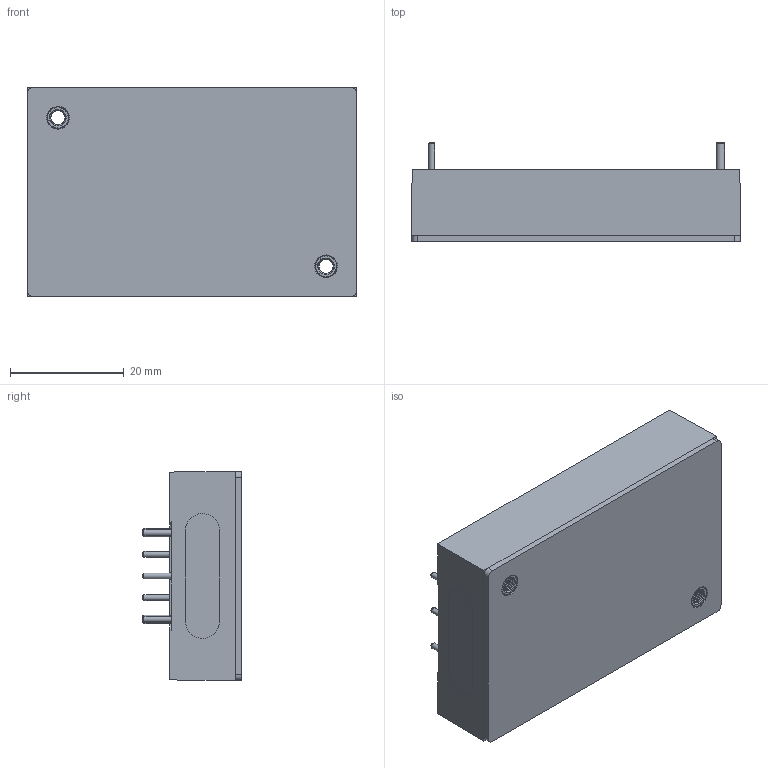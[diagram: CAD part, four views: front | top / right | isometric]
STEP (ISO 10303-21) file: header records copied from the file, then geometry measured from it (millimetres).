
FILE_DESCRIPTION (( 'STEP AP203' ), '1' );
FILE_NAME ('CQB100W-110SXX 2023.10.06.STEP', '2024-05-09T06:17:09', ( '' ), ( '' ), 'SwSTEP 2.0', 'SolidWorks 2020', '' );
FILE_SCHEMA (( 'CONFIG_CONTROL_DESIGN' ));
Length unit declared in the file: millimetre
Products named in the file (1): CQB100W-110SXX 2023.10.06
Bounding box: 57.9 x 17.52 x 36.8 mm (x, y, z)
Volume: 26687.5 mm3; surface area: 7594.2 mm2
Topology: 1 solids, 1 shells, 673 faces, 1816 edges, 1209 vertices
Faces by surface type: plane 450, bspline 127, cone 72, cylinder 24
Full cylindrical faces by diameter (mm): 1.02 x6, 1.5 x2, 4 x2, 4.3 x2, 4.5 x2
Entity records: 32245 total; most frequent: CARTESIAN_POINT 16373, ORIENTED_EDGE 3534, DIRECTION 2714, EDGE_CURVE 1767, VERTEX_POINT 1194, LINE 1152, VECTOR 1152, AXIS2_PLACEMENT_3D 781
